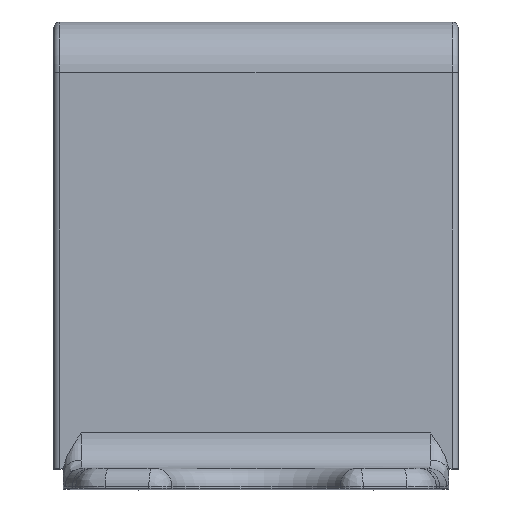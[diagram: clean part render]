
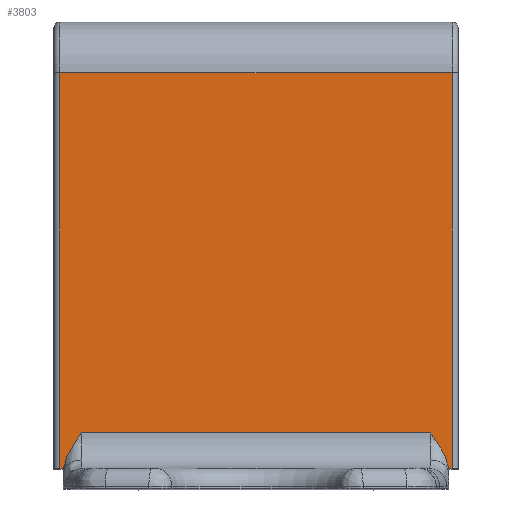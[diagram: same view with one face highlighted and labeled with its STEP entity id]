
A CAD part, top view. The second image highlights one B-rep face of the part: STEP entity #3803.
In plain terms, the highlighted planar face has unit normal (0, 0, 1).
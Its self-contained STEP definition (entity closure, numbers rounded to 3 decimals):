
#64=PLANE('',#4161);
#224=LINE('',#6056,#525);
#250=LINE('',#6188,#551);
#255=LINE('',#6205,#556);
#263=LINE('',#6230,#564);
#277=LINE('',#6305,#578);
#278=LINE('',#6307,#579);
#525=VECTOR('',#4705,10.);
#551=VECTOR('',#4813,10.);
#556=VECTOR('',#4828,10.);
#564=VECTOR('',#4848,10.);
#578=VECTOR('',#4890,10.);
#579=VECTOR('',#4893,10.);
#926=FACE_OUTER_BOUND('',#1164,.T.);
#1164=EDGE_LOOP('',(#3025,#3026,#3027,#3028,#3029,#3030,#3031,#3032));
#1305=B_SPLINE_CURVE_WITH_KNOTS('',3,(#5506,#5507,#5508,#5509,#5510,#5511,
#5512,#5513),.UNSPECIFIED.,.F.,.F.,(4,2,2,4),(1.061,1.094,
1.173,1.433),.UNSPECIFIED.);
#1310=B_SPLINE_CURVE_WITH_KNOTS('',3,(#5671,#5672,#5673,#5674,#5675,#5676,
#5677,#5678),.UNSPECIFIED.,.F.,.F.,(4,2,2,4),(0.,0.26,0.339,
0.372),.UNSPECIFIED.);
#1589=VERTEX_POINT('',#5495);
#1592=VERTEX_POINT('',#5504);
#1615=VERTEX_POINT('',#5669);
#1616=VERTEX_POINT('',#5670);
#1720=VERTEX_POINT('',#6187);
#1727=VERTEX_POINT('',#6203);
#1738=VERTEX_POINT('',#6229);
#1761=VERTEX_POINT('',#6303);
#1948=EDGE_CURVE('',#1592,#1589,#1305,.F.);
#1986=EDGE_CURVE('',#1615,#1616,#1310,.T.);
#2110=EDGE_CURVE('',#1615,#1592,#224,.T.);
#2160=EDGE_CURVE('',#1589,#1720,#250,.T.);
#2169=EDGE_CURVE('',#1616,#1727,#255,.T.);
#2181=EDGE_CURVE('',#1720,#1738,#263,.T.);
#2209=EDGE_CURVE('',#1761,#1727,#277,.T.);
#2210=EDGE_CURVE('',#1738,#1761,#278,.T.);
#3025=ORIENTED_EDGE('',*,*,#2169,.T.);
#3026=ORIENTED_EDGE('',*,*,#2209,.F.);
#3027=ORIENTED_EDGE('',*,*,#2210,.F.);
#3028=ORIENTED_EDGE('',*,*,#2181,.F.);
#3029=ORIENTED_EDGE('',*,*,#2160,.F.);
#3030=ORIENTED_EDGE('',*,*,#1948,.F.);
#3031=ORIENTED_EDGE('',*,*,#2110,.F.);
#3032=ORIENTED_EDGE('',*,*,#1986,.T.);
#3803=ADVANCED_FACE('',(#926),#64,.T.);
#4161=AXIS2_PLACEMENT_3D('',#6306,#4891,#4892);
#4705=DIRECTION('',(-1.,0.,0.));
#4813=DIRECTION('',(-1.,0.,0.));
#4828=DIRECTION('',(1.,0.,0.));
#4848=DIRECTION('',(0.,1.,0.));
#4890=DIRECTION('',(0.,-1.,0.));
#4891=DIRECTION('center_axis',(0.,0.,
1.));
#4892=DIRECTION('ref_axis',(0.,-1.,0.));
#4893=DIRECTION('',(1.,0.,0.));
#5495=CARTESIAN_POINT('',(-18.966,38.,13.893));
#5504=CARTESIAN_POINT('',(-17.2,41.5,13.893));
#5506=CARTESIAN_POINT('Ctrl Pts',(-18.966,38.,13.893));
#5507=CARTESIAN_POINT('Ctrl Pts',(-18.949,38.117,13.893));
#5508=CARTESIAN_POINT('Ctrl Pts',(-18.927,38.234,13.893));
#5509=CARTESIAN_POINT('Ctrl Pts',(-18.835,38.631,13.893));
#5510=CARTESIAN_POINT('Ctrl Pts',(-18.74,38.905,13.893));
#5511=CARTESIAN_POINT('Ctrl Pts',(-18.302,39.947,13.893));
#5512=CARTESIAN_POINT('Ctrl Pts',(-17.704,40.797,13.893));
#5513=CARTESIAN_POINT('Ctrl Pts',(-17.2,41.5,13.893));
#5669=CARTESIAN_POINT('',(17.2,41.5,13.893));
#5670=CARTESIAN_POINT('',(18.966,38.,13.893));
#5671=CARTESIAN_POINT('Ctrl Pts',(17.2,41.5,13.893));
#5672=CARTESIAN_POINT('Ctrl Pts',(17.704,40.797,13.893));
#5673=CARTESIAN_POINT('Ctrl Pts',(18.302,39.947,13.893));
#5674=CARTESIAN_POINT('Ctrl Pts',(18.74,38.905,13.893));
#5675=CARTESIAN_POINT('Ctrl Pts',(18.835,38.631,13.893));
#5676=CARTESIAN_POINT('Ctrl Pts',(18.927,38.234,13.893));
#5677=CARTESIAN_POINT('Ctrl Pts',(18.949,38.117,13.893));
#5678=CARTESIAN_POINT('Ctrl Pts',(18.966,38.,13.893));
#6056=CARTESIAN_POINT('',(0.,41.5,13.893));
#6187=CARTESIAN_POINT('',(-19.322,38.,13.893));
#6188=CARTESIAN_POINT('',(-9.961,38.,13.893));
#6203=CARTESIAN_POINT('',(19.322,38.,13.893));
#6205=CARTESIAN_POINT('',(-9.961,38.,13.893));
#6229=CARTESIAN_POINT('',(-19.322,77.,13.893));
#6230=CARTESIAN_POINT('',(-19.322,71.,13.893));
#6303=CARTESIAN_POINT('',(19.322,77.,13.893));
#6305=CARTESIAN_POINT('',(19.322,71.,13.893));
#6306=CARTESIAN_POINT('Origin',(0.,82.,
13.893));
#6307=CARTESIAN_POINT('',(0.,77.,13.893));
